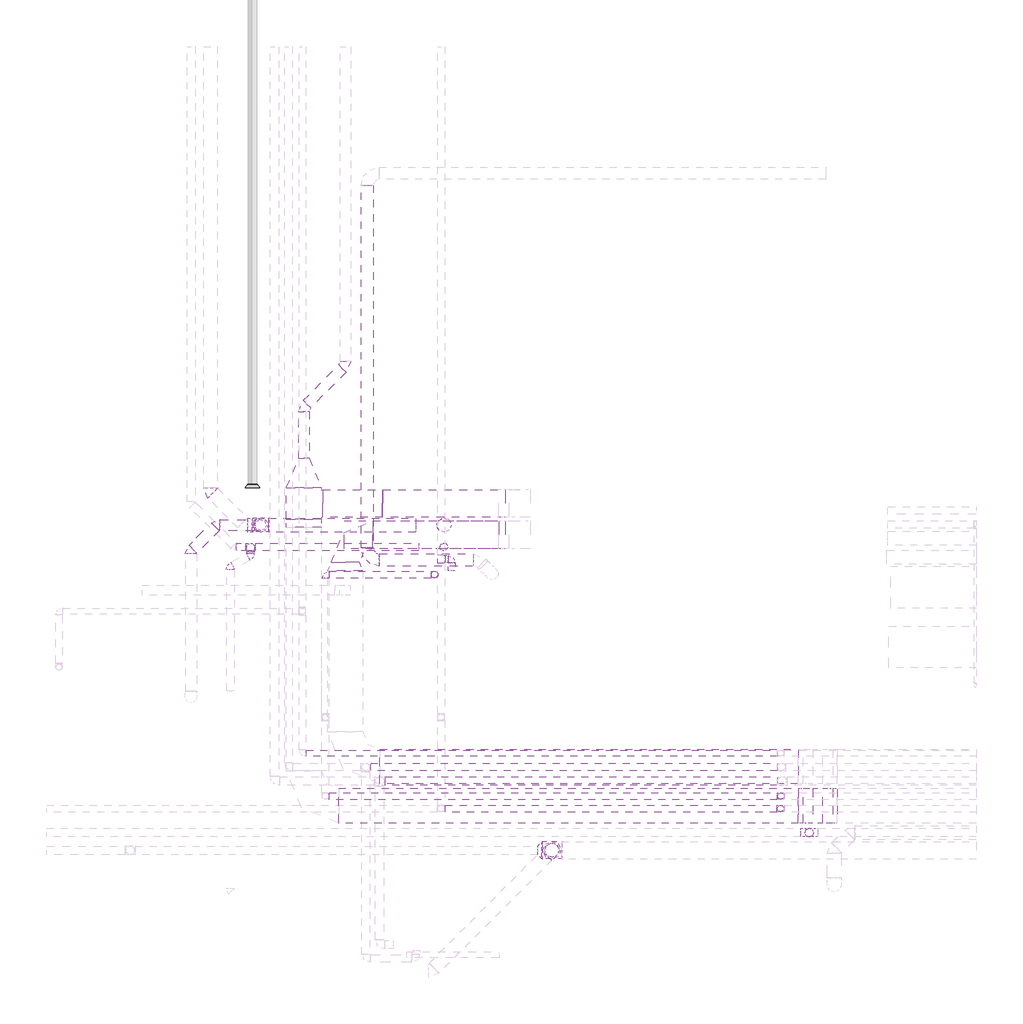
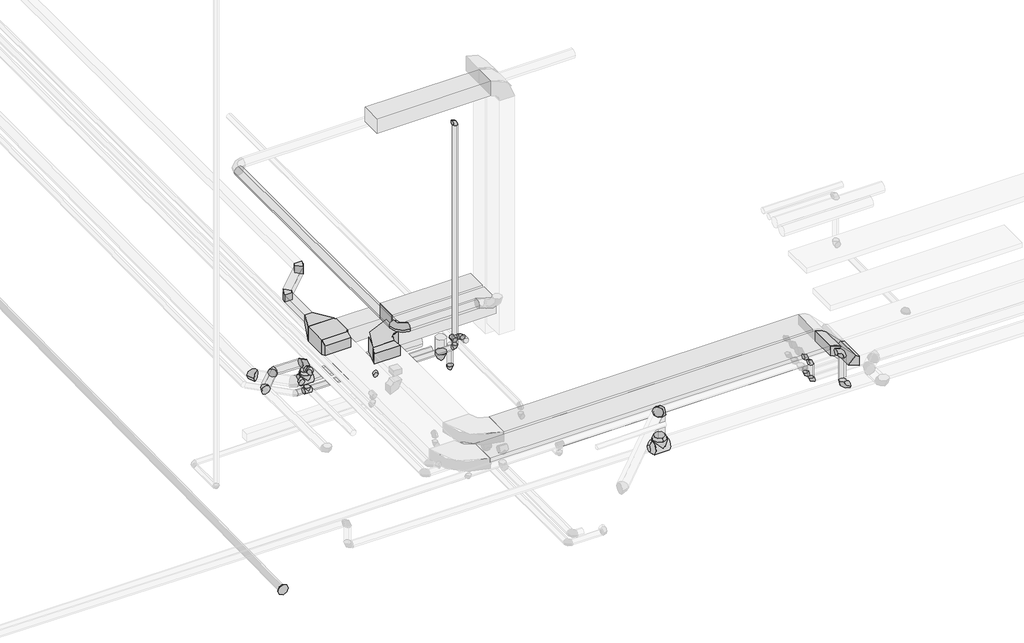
# One storey, part 3 of 12: 26 pipe fittings, 22 pipe segments, 13 duct fittings, 12 duct segments.
"""IFC4 building model written with IfcOpenShell, lengths in millimetres."""

from ifc_helpers import new_model, si_unit, point, frame, frame_2d, origin, place, context, project, spatial, polyline, circle_curve, trimmed, segment, composite_curve, outline, extrude, transform, mapped, element, save
from components import duct_fitting_afa92eea, duct_fitting_d6645870, duct_fitting_4eb480d5, apt_0aab174b, apt_c334632e, m_codo_rectangular_radio_apt_1_w_cd8a0157, m_codo_rectangular_radio_apt_1_w_e05122fd, m_codo_rectangular_radio_apt_1_w_3d36b4d6, m_codo_redondo_ext_1_d_74319309, m_codo_redondo_ext_1_d_f5cf0ac1, pipe_fitting_daf7410a, pipe_fitting_0ea30f17, pipe_fitting_ae9a0cda, pipe_fitting_c8b089c1, pipe_fitting_fa3f9604, pipe_fitting_87aeffad, pipe_fitting_2d09eb79, pipe_fitting_d8b95698, pipe_fitting_3877afa0, pipe_fitting_ca4916f3, pipe_fitting_760535a0, pipe_fitting_a6cf3e06, pipe_fitting_a304570c, pipe_fitting_de21bee5, pipe_fitting_fdbd3d1a, pipe_fitting_402c58f1, pipe_fitting_2d7301f5, pipe_fitting_4bdfcd00

model = new_model("IFC4")

# Units and contexts
model_context = context("Model", 3, world=origin())
ifc_project = project(units=[si_unit("LENGTHUNIT", "METRE", prefix="MILLI")], contexts=[model_context])

# Site, building, storey
site = spatial("IfcSite", under=ifc_project)
building = spatial("IfcBuilding", under=site)
storey = spatial("IfcBuildingStorey", under=building, Name="Nivell -01 PS1_PK", Elevation=1850.0)

# Duct fittings
placement = place(None, origin())
duct_fitting_shape = duct_fitting_afa92eea(model_context)
element("IfcDuctFitting", 1, ObjectType="M_Transición rectangular - Ángulo : APT_45 graus", at=placement, inside=storey, context=model_context, shape_type="MappedRepresentation", body=[
    mapped(duct_fitting_shape, transform((5630.3976532, -11196.0448982, 6150.0), x_axis=(0.0, -1.0, 0.0), y_axis=(1.0, 0.0, 0.0), z_axis=(0.0, 0.0, 1.0))),
])
duct_fitting_2_shape = duct_fitting_d6645870(model_context)
element("IfcDuctFitting", 2, ObjectType="M_Transición rectangular - Ángulo : APT_45 graus", at=placement, inside=storey, context=model_context, shape_type="MappedRepresentation", body=[
    mapped(duct_fitting_2_shape, transform((5630.3976532, -10323.5575248, 6150.0), x_axis=(0.0, -1.0, 0.0), y_axis=(1.0, 0.0, 0.0), z_axis=(0.0, 0.0, 1.0))),
])
duct_fitting_3_shape = duct_fitting_4eb480d5(model_context)
element("IfcDuctFitting", 3, ObjectType="M_Transición rectangular - Ángulo : EXT_45 graus", at=placement, inside=storey, context=model_context, shape_type="MappedRepresentation", body=[
    mapped(duct_fitting_3_shape, transform((6225.7133499, -11821.0535666, 6150.0), x_axis=(0.0, -1.0, 0.0), y_axis=(1.0, 0.0, 0.0), z_axis=(0.0, 0.0, 1.0))),
])
apt_shape = apt_0aab174b(model_context)
element("IfcDuctFitting", 4, ObjectType="M_Te rectangular : APT", at=placement, inside=storey, context=model_context, shape_type="MappedRepresentation", body=[
    mapped(apt_shape, transform((5630.3976532, -10971.0448982, 6150.0), x_axis=(0.0, 1.0, 0.0), y_axis=(-1.0, 0.0, 0.0), z_axis=(0.0, 0.0, 1.0))),
])
apt_2_shape = apt_c334632e(model_context)
element("IfcDuctFitting", 5, ObjectType="M_Unión rectangular : APT", at=placement, inside=storey, context=model_context, shape_type="MappedRepresentation", body=[
    mapped(apt_2_shape, transform((6765.3976532, -10971.0448982, 6150.0), x_axis=(1.0, 0.0, 0.0), y_axis=(0.0, 1.0, 0.0), z_axis=(0.0, 0.0, 1.0))),
])
m_codo_rectangular_radio_apt_1_w_shape = m_codo_rectangular_radio_apt_1_w_cd8a0157(model_context)
element("IfcDuctFitting", 6, ObjectType="M_Codo rectangular - Radio : APT_1 W", at=placement, inside=storey, context=model_context, shape_type="MappedRepresentation", body=[
    mapped(m_codo_rectangular_radio_apt_1_w_shape, transform((12828.7133499, -15322.0340662, 6150.0), x_axis=(1.0, 0.0, 0.0), y_axis=(0.0, 0.0, -1.0), z_axis=(0.0, 1.0, 0.0))),
])
element("IfcDuctFitting", 7, ObjectType="M_Codo rectangular - Radio : APT_1 W", at=placement, inside=storey, context=model_context, shape_type="MappedRepresentation", body=[
    mapped(m_codo_rectangular_radio_apt_1_w_shape, transform((13228.7133499, -15322.0340662, 5750.0), x_axis=(-1.0, 0.0, 0.0), y_axis=(0.0, 0.0, 1.0), z_axis=(0.0, 1.0, 0.0))),
])
m_codo_rectangular_radio_apt_1_w_2_shape = m_codo_rectangular_radio_apt_1_w_e05122fd(model_context)
element("IfcDuctFitting", 8, ObjectType="M_Codo rectangular - Radio : APT_1 W", at=placement, inside=storey, context=model_context, shape_type="MappedRepresentation", body=[
    mapped(m_codo_rectangular_radio_apt_1_w_2_shape, transform((6230.3976532, -8986.5575248, 6150.0), x_axis=(0.7071067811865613, 0.7071067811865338, 0.0), y_axis=(-0.7071067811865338, 0.7071067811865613, 0.0), z_axis=(0.0, 0.0, 1.0))),
])
element("IfcDuctFitting", 9, ObjectType="M_Codo rectangular - Radio : APT_1 W", at=placement, inside=storey, context=model_context, shape_type="MappedRepresentation", body=[
    mapped(m_codo_rectangular_radio_apt_1_w_2_shape, transform((5630.3976532, -9586.5575248, 6150.0), x_axis=(-0.70710678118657, -0.7071067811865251, 0.0), y_axis=(0.7071067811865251, -0.70710678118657, 0.0), z_axis=(0.0, 0.0, 1.0))),
])
m_codo_rectangular_radio_apt_1_w_3_shape = m_codo_rectangular_radio_apt_1_w_3d36b4d6(model_context)
element("IfcDuctFitting", 10, ObjectType="M_Codo rectangular - Radio : EXT_1 W", at=placement, inside=storey, context=model_context, shape_type="MappedRepresentation", body=[
    mapped(m_codo_rectangular_radio_apt_1_w_3_shape, transform((6225.7133499, -11421.0535666, 6150.0), x_axis=(-1.0, 0.0, 0.0), y_axis=(0.0, -1.0, 0.0), z_axis=(0.0, 0.0, 1.0))),
])
m_codo_redondo_ext_1_d_shape = m_codo_redondo_ext_1_d_74319309(model_context)
element("IfcDuctFitting", 11, ObjectType="M_Codo redondo : EXT_1 D", at=placement, inside=storey, context=model_context, shape_type="MappedRepresentation", body=[
    mapped(m_codo_redondo_ext_1_d_shape, transform((6541.1206995, -11784.7059364, 6462.5), x_axis=(0.0, -1.0, 0.0), y_axis=(1.0, 0.0, 0.0), z_axis=(0.0, 0.0, 1.0))),
])
m_codo_redondo_ext_1_d_2_shape = m_codo_redondo_ext_1_d_f5cf0ac1(model_context)
element("IfcDuctFitting", 12, ObjectType="M_Codo redondo : EXT_1 D", at=placement, inside=storey, context=model_context, shape_type="MappedRepresentation", body=[
    mapped(m_codo_redondo_ext_1_d_2_shape, transform((12904.4419437, -15709.0880218, 6196.7), x_axis=(1.0, 0.0, 0.0), y_axis=(0.0, 0.0, -1.0), z_axis=(0.0, 1.0, 0.0))),
])
element("IfcDuctFitting", 13, ObjectType="M_Codo redondo : EXT_1 D", at=placement, inside=storey, context=model_context, shape_type="MappedRepresentation", body=[
    mapped(m_codo_redondo_ext_1_d_2_shape, transform((12904.4419437, -15709.0886118, 5450.0437732), x_axis=(0.0, 0.0, -1.0), y_axis=(1.0, 0.0, 0.0), z_axis=(0.0, -1.0, 0.0))),
])

# Duct segments
element("IfcDuctSegment", 14, ObjectType="EXT_Fibra de vidre rígida", at=placement, inside=storey, context=model_context, shape_type="SweptSolid", body=[
    extrude(outline(polyline([(8437.7699514, -11221.0059601), (8437.7699514, -11621.0059601), (6215.0942859, -11621.0059601), (6215.0942859, -11221.0059601), (8437.7699514, -11221.0059601)])), frame((0.0, 0.0, 10510.0), z_axis=(0.0, 0.0, 1.0), x_axis=(1.0, 0.0, 0.0)), (0.0, 0.0, 1.0), 300.0),
])
element("IfcDuctSegment", 15, ObjectType="EXT_Acer Galvanitzat - Rígid", at=placement, inside=storey, context=model_context, shape_type="SweptSolid", body=[
    extrude(outline(composite_curve([segment(trimmed(circle_curve(frame_2d((6462.5, 6541.1206995)), 87.5), [point((6462.5, 6453.6206995))], [point((6375.0, 6541.1206995))], False, "CARTESIAN"), True, "CONTINUOUS"), segment(trimmed(circle_curve(frame_2d((6462.5, 6541.1206995)), 87.5), [point((6375.0, 6541.1206995))], [point((6462.5, 6628.6206995))], False, "CARTESIAN"), True, "CONTINUOUS"), segment(trimmed(circle_curve(frame_2d((6462.5, 6541.1206995)), 87.5), [point((6462.5, 6628.6206995))], [point((6550.0, 6541.1206995))], False, "CARTESIAN"), True, "CONTINUOUS"), segment(trimmed(circle_curve(frame_2d((6462.5, 6541.1206995)), 87.5), [point((6550.0, 6541.1206995))], [point((6462.5, 6453.6206995))], False, "CARTESIAN"), True, "CONTINUOUS")], self_intersect=False)), frame((0.0, -11609.7059364, 0.0), z_axis=(0.0, 1.0, 0.0), x_axis=(0.0, 0.0, 1.0)), (0.0, 0.0, 1.0), 5214.5201647),
])
element("IfcDuctSegment", 16, ObjectType="APT_Fibra de vidre rígida", at=placement, inside=storey, context=model_context, shape_type="SweptSolid", body=[
    extrude(outline(polyline([(6768.3976532, -11171.0448982), (6768.3976532, -10771.0448982), (8530.3976532, -10771.0448982), (8530.3976532, -11171.0448982), (6768.3976532, -11171.0448982)])), frame((0.0, 0.0, 6000.0), z_axis=(0.0, 0.0, 1.0), x_axis=(1.0, 0.0, 0.0)), (0.0, 0.0, 1.0), 300.0),
])
element("IfcDuctSegment", 17, ObjectType="APT_Fibra de vidre rígida", at=placement, inside=storey, context=model_context, shape_type="SweptSolid", body=[
    extrude(outline(polyline([(5555.3976532, -9648.6895591), (5705.3976532, -9648.6895591), (5705.3976532, -10323.5575248), (5555.3976532, -10323.5575248), (5555.3976532, -9648.6895591)])), frame((0.0, 0.0, 6075.0), z_axis=(0.0, 0.0, 1.0), x_axis=(1.0, 0.0, 0.0)), (0.0, 0.0, 1.0), 150.0),
])
element("IfcDuctSegment", 18, ObjectType="EXT_Fibra de vidre rígida", at=placement, inside=storey, context=model_context, shape_type="SweptSolid", body=[
    extrude(outline(polyline([(6625.7133499, -11621.0535666), (6625.7133499, -11221.0535666), (8530.3976532, -11221.0535666), (8530.3976532, -11621.0535666), (6625.7133499, -11621.0535666)])), frame((0.0, 0.0, 6000.0), z_axis=(0.0, 0.0, 1.0), x_axis=(1.0, 0.0, 0.0)), (0.0, 0.0, 1.0), 300.0),
])
element("IfcDuctSegment", 19, ObjectType="APT_Fibra de vidre rígida", at=placement, inside=storey, context=model_context, shape_type="SweptSolid", body=[
    extrude(outline(polyline([(12745.8706374, -15072.0340662), (12745.8706374, -15572.0340662), (6130.3976532, -15572.0340662), (6130.3976532, -15072.0340662), (12745.8706374, -15072.0340662)])), frame((0.0, 0.0, 6050.0), z_axis=(0.0, 0.0, 1.0), x_axis=(1.0, 0.0, 0.0)), (0.0, 0.0, 1.0), 200.0),
])
element("IfcDuctSegment", 20, ObjectType="APT_Fibra de vidre rígida", at=placement, inside=storey, context=model_context, shape_type="SweptSolid", body=[
    extrude(outline(polyline([(5905.3976532, -11171.0448982), (5905.3976532, -10771.0448982), (6762.3976532, -10771.0448982), (6762.3976532, -11171.0448982), (5905.3976532, -11171.0448982)])), frame((0.0, 0.0, 6000.0), z_axis=(0.0, 0.0, 1.0), x_axis=(1.0, 0.0, 0.0)), (0.0, 0.0, 1.0), 300.0),
])
element("IfcDuctSegment", 21, ObjectType="EXT_Acer Galvanitzat - Rígid", at=placement, inside=storey, context=model_context, shape_type="SweptSolid", body=[
    extrude(outline(composite_curve([segment(trimmed(circle_curve(frame_2d((-11784.7059364, 6462.5)), 87.5), [point((-11872.2059364, 6462.5))], [point((-11784.7059364, 6550.0))], False, "CARTESIAN"), True, "CONTINUOUS"), segment(trimmed(circle_curve(frame_2d((-11784.7059364, 6462.5)), 87.5), [point((-11784.7059364, 6550.0))], [point((-11697.2059364, 6462.5))], False, "CARTESIAN"), True, "CONTINUOUS"), segment(trimmed(circle_curve(frame_2d((-11784.7059364, 6462.5)), 87.5), [point((-11697.2059364, 6462.5))], [point((-11784.7059364, 6375.0))], False, "CARTESIAN"), True, "CONTINUOUS"), segment(trimmed(circle_curve(frame_2d((-11784.7059364, 6462.5)), 87.5), [point((-11784.7059364, 6375.0))], [point((-11872.2059364, 6462.5))], False, "CARTESIAN"), True, "CONTINUOUS")], self_intersect=False)), frame((6716.1206995, 0.0, 0.0), z_axis=(1.0, 0.0, 0.0), x_axis=(0.0, 1.0, 0.0)), (0.0, 0.0, 1.0), 1352.5126266),
])
element("IfcDuctSegment", 22, ObjectType="EXT_Fibra de vidre rígida", at=placement, inside=storey, context=model_context, shape_type="SweptSolid", body=[
    extrude(outline(polyline([(6725.7133499, -15007.626822), (6725.7133499, -14507.626822), (12745.8706374, -14507.626822), (12745.8706374, -15007.626822), (6725.7133499, -15007.626822)])), frame((0.0, 0.0, 6050.0), z_axis=(0.0, 0.0, 1.0), x_axis=(1.0, 0.0, 0.0)), (0.0, 0.0, 1.0), 200.0),
])
element("IfcDuctSegment", 23, ObjectType="APT_Fibra de vidre rígida", at=placement, inside=storey, context=model_context, shape_type="SweptSolid", body=[
    extrude(outline(polyline([(0.0, -500.0), (0.0, 0.0), (400.0, 0.0), (400.0, -500.0), (0.0, -500.0)])), frame((12816.5813155, -15072.0340662, 6020.7106781), z_axis=(0.7071067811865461, 0.0, 0.7071067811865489), x_axis=(0.7071067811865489, 0.0, -0.7071067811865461)), (0.0, 0.0, 1.0), 200.0),
])
element("IfcDuctSegment", 24, ObjectType="APT_Fibra de vidre rígida", at=placement, inside=storey, context=model_context, shape_type="SweptSolid", body=[
    extrude(outline(polyline([(6133.4306618, -8977.458499), (6239.4966789, -9083.5245162), (5727.3646446, -9595.6565505), (5621.2986274, -9489.5905333), (6133.4306618, -8977.458499)])), frame((0.0, 0.0, 6075.0), z_axis=(0.0, 0.0, 1.0), x_axis=(1.0, 0.0, 0.0)), (0.0, 0.0, 1.0), 150.0),
])
element("IfcDuctSegment", 25, ObjectType="EXT_Acer Galvanitzat - Rígid", at=placement, inside=storey, context=model_context, shape_type="SweptSolid", body=[
    extrude(outline(composite_curve([segment(trimmed(circle_curve(frame_2d((0.0, -62.5)), 62.5), [point((0.0, 0.0))], [point((62.5, -62.5))], False, "CARTESIAN"), True, "CONTINUOUS"), segment(trimmed(circle_curve(frame_2d((0.0, -62.5)), 62.5), [point((62.5, -62.5))], [point((0.0, -125.0))], False, "CARTESIAN"), True, "CONTINUOUS"), segment(trimmed(circle_curve(frame_2d((0.0, -62.5)), 62.5), [point((0.0, -125.0))], [point((-62.5, -62.5))], False, "CARTESIAN"), True, "CONTINUOUS"), segment(trimmed(circle_curve(frame_2d((0.0, -62.5)), 62.5), [point((-62.5, -62.5))], [point((0.0, 0.0))], False, "CARTESIAN"), True, "CONTINUOUS")], self_intersect=False)), frame((12904.4419437, -15771.5886118, 5575.0438474), z_axis=(0.0, 1.1879396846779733e-06, 0.9999999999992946), x_axis=(-1.0, 0.0, 0.0)), (0.0, 0.0, 1.0), 496.6562268),
])

# Pipe fittings
pipe_fitting_shape = pipe_fitting_daf7410a(model_context)
element("IfcPipeFitting", 26, ObjectType="M_Codo - Genérico : Estándar", at=placement, inside=storey, context=model_context, shape_type="MappedRepresentation", body=[
    mapped(pipe_fitting_shape, transform((5007.9227666, -11283.0348954, 6038.4611755), x_axis=(0.9999500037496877, 0.0, -0.009999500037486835), y_axis=(-0.009999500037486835, 0.0, -0.9999500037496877), z_axis=(0.0, 1.0, 0.0))),
])
pipe_fitting_2_shape = pipe_fitting_0ea30f17(model_context)
element("IfcPipeFitting", 27, ObjectType="M_Codo - Genérico : Estándar", at=placement, inside=storey, context=model_context, shape_type="MappedRepresentation", body=[
    mapped(pipe_fitting_2_shape, transform((4008.5897125, -11656.1501323, 6050.0), x_axis=(-0.7070714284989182, -0.7070714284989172, 0.009999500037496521), y_axis=(0.70713000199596, -0.7070714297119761, 0.004141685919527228), z_axis=(0.004141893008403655, 0.009999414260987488, 0.9999414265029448))),
])
element("IfcPipeFitting", 28, ObjectType="M_Codo - Genérico : Estándar", at=placement, inside=storey, context=model_context, shape_type="MappedRepresentation", body=[
    mapped(pipe_fitting_2_shape, transform((4381.7049494, -11283.0348954, 6044.7233537), x_axis=(-0.9999500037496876, 0.0, 0.009999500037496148), y_axis=(4.141685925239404e-05, -0.9999914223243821, 0.004141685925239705), z_axis=(0.009999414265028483, 0.004141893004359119, 0.9999414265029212))),
])
pipe_fitting_3_shape = pipe_fitting_ae9a0cda(model_context)
element("IfcPipeFitting", 29, ObjectType="M_Codo - Genérico : Estándar", at=placement, inside=storey, context=model_context, shape_type="MappedRepresentation", body=[
    mapped(pipe_fitting_3_shape, transform((4287.2876623, -10789.2621907, 5707.0204004), x_axis=(0.0, -0.9999500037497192, -0.009999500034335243), y_axis=(0.9999914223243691, 4.1416859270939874e-05, -0.004141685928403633), z_axis=(0.004141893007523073, -0.009999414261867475, 0.9999414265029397))),
])
pipe_fitting_4_shape = pipe_fitting_c8b089c1(model_context)
element("IfcPipeFitting", 30, ObjectType="M_Codo - Genérico : Estándar", at=placement, inside=storey, context=model_context, shape_type="MappedRepresentation", body=[
    mapped(pipe_fitting_4_shape, transform((7651.6499618, -11284.1025763, 5275.3550602), x_axis=(0.0, 0.0, -1.0), y_axis=(-0.7071067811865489, 0.7071067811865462, 0.0), z_axis=(0.7071067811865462, 0.7071067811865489, 0.0))),
])
pipe_fitting_5_shape = pipe_fitting_fa3f9604(model_context)
element("IfcPipeFitting", 31, ObjectType="M_Codo - Genérico : Estándar", at=placement, inside=storey, context=model_context, shape_type="MappedRepresentation", body=[
    mapped(pipe_fitting_5_shape, transform((4863.5008299, -11598.5251165, 6154.1977798), x_axis=(0.0, 0.0, 1.0), y_axis=(0.0, -1.0, 0.0), z_axis=(1.0, 0.0, 0.0))),
])
pipe_fitting_6_shape = pipe_fitting_87aeffad(model_context)
element("IfcPipeFitting", 32, ObjectType="M_Codo - Genérico : Estándar", at=placement, inside=storey, context=model_context, shape_type="MappedRepresentation", body=[
    mapped(pipe_fitting_6_shape, transform((7514.0491946, -11995.3314651, 10529.2), x_axis=(0.0, 0.0, 1.0), y_axis=(-1.0, 0.0, 0.0), z_axis=(0.0, -1.0, 0.0))),
])
element("IfcPipeFitting", 33, ObjectType="M_Codo - Genérico : Estándar", at=placement, inside=storey, context=model_context, shape_type="MappedRepresentation", body=[
    mapped(pipe_fitting_6_shape, transform((7761.0364328, -11771.0454936, 5899.2), x_axis=(0.0, 1.0, 0.0), y_axis=(-1.0, 0.0, 0.0), z_axis=(0.0, 0.0, 1.0))),
])
element("IfcPipeFitting", 34, ObjectType="M_Codo - Genérico : Estándar", at=placement, inside=storey, context=model_context, shape_type="MappedRepresentation", body=[
    mapped(pipe_fitting_6_shape, transform((7514.0491946, -11995.3314651, 5899.2), x_axis=(0.0, 0.0, -1.0), y_axis=(-1.0, 0.0, 0.0), z_axis=(0.0, 1.0, 0.0))),
])
element("IfcPipeFitting", 35, ObjectType="M_Codo - Genérico : Estándar", at=placement, inside=storey, context=model_context, shape_type="MappedRepresentation", body=[
    mapped(pipe_fitting_6_shape, transform((5940.3309667, -11995.3314651, 5899.2), x_axis=(-1.0, 0.0, 0.0), y_axis=(0.0, -1.0, 0.0), z_axis=(0.0, 0.0, 1.0))),
])
element("IfcPipeFitting", 36, ObjectType="M_Codo - Genérico : Estándar", at=placement, inside=storey, context=model_context, shape_type="MappedRepresentation", body=[
    mapped(pipe_fitting_6_shape, transform((12495.7217422, -15184.3810887, 5899.2), x_axis=(1.0, 0.0, 0.0), y_axis=(0.0, 0.0, -1.0), z_axis=(0.0, 1.0, 0.0))),
])
element("IfcPipeFitting", 37, ObjectType="M_Codo - Genérico : Estándar", at=placement, inside=storey, context=model_context, shape_type="MappedRepresentation", body=[
    mapped(pipe_fitting_6_shape, transform((12492.3309625, -15364.3646266, 5899.2), x_axis=(1.0, 0.0, 0.0), y_axis=(0.0, 0.0, -1.0), z_axis=(0.0, 1.0, 0.0))),
])
element("IfcPipeFitting", 38, ObjectType="M_Codo - Genérico : Estándar", at=placement, inside=storey, context=model_context, shape_type="MappedRepresentation", body=[
    mapped(pipe_fitting_6_shape, transform((12492.3309625, -15364.3646266, 5519.2), x_axis=(0.0, 0.0, -1.0), y_axis=(1.0, 0.0, 0.0), z_axis=(0.0, -1.0, 0.0))),
])
element("IfcPipeFitting", 39, ObjectType="M_Codo - Genérico : Estándar", at=placement, inside=storey, context=model_context, shape_type="MappedRepresentation", body=[
    mapped(pipe_fitting_6_shape, transform((12495.7217422, -15184.3810887, 5519.2), x_axis=(0.0, 0.0, -1.0), y_axis=(1.0, 0.0, 0.0), z_axis=(0.0, -1.0, 0.0))),
])
pipe_fitting_7_shape = pipe_fitting_2d09eb79(model_context)
element("IfcPipeFitting", 40, ObjectType="M_Te - Genérica : Estándar", at=placement, inside=storey, context=model_context, shape_type="MappedRepresentation", body=[
    mapped(pipe_fitting_7_shape, transform((7606.3040659, -11771.0454936, 5899.2), x_axis=(0.0, -1.0, 0.0), y_axis=(-1.0, 0.0, 0.0), z_axis=(0.0, 0.0, -1.0))),
])
pipe_fitting_8_shape = pipe_fitting_d8b95698(model_context)
element("IfcPipeFitting", 41, ObjectType="M_Codo - Genérico : Estándar", at=placement, inside=storey, context=model_context, shape_type="MappedRepresentation", body=[
    mapped(pipe_fitting_8_shape, transform((7646.8586326, -11600.2569539, 5208.2101699), x_axis=(0.0, 0.0, -1.0), y_axis=(-0.7071067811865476, 0.7071067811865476, 0.0), z_axis=(0.7071067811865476, 0.7071067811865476, 0.0))),
])
pipe_fitting_9_shape = pipe_fitting_3877afa0(model_context)
element("IfcPipeFitting", 42, ObjectType="M_Te - Genérica : Estándar", at=placement, inside=storey, context=model_context, shape_type="MappedRepresentation", body=[
    mapped(pipe_fitting_9_shape, transform((4863.5008299, -11598.5251165, 5697.7649259), x_axis=(-0.9999500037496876, 0.0, 0.009999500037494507), y_axis=(-0.009999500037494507, 0.0, -0.9999500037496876), z_axis=(0.0, -1.0, 0.0))),
])
pipe_fitting_10_shape = pipe_fitting_ca4916f3(model_context)
element("IfcPipeFitting", 43, ObjectType="M_Codo - Genérico : Estándar", at=placement, inside=storey, context=model_context, shape_type="MappedRepresentation", body=[
    mapped(pipe_fitting_10_shape, transform((4863.5008299, -11722.1955352, 6154.1977798), x_axis=(0.8724963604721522, 0.48846478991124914, 0.012338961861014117), y_axis=(-0.4884159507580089, 0.8725836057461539, -0.006907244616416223), z_axis=(-0.014140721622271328, 0.0, 0.9999000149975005))),
])
pipe_fitting_11_shape = pipe_fitting_760535a0(model_context)
element("IfcPipeFitting", 44, ObjectType="M_Codo - Genérico : Estándar", at=placement, inside=storey, context=model_context, shape_type="MappedRepresentation", body=[
    mapped(pipe_fitting_11_shape, transform((4572.3218791, -11885.2110405, 6150.0), x_axis=(-0.872496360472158, -0.4884647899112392, -0.012338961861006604), y_axis=(0.4882218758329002, -0.8725263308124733, 0.018363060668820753), z_axis=(-0.019735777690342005, 0.009997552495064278, 0.9997552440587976))),
])
pipe_fitting_12_shape = pipe_fitting_a6cf3e06(model_context)
element("IfcPipeFitting", 45, ObjectType="M_Transición - Genérica : Estándar", at=placement, inside=storey, context=model_context, shape_type="MappedRepresentation", body=[
    mapped(pipe_fitting_12_shape, transform((5007.9227666, -11283.0348954, 5813.6562758), x_axis=(0.0, 0.0, 1.0), y_axis=(-1.0, 0.0, 0.0), z_axis=(0.0, -1.0, 0.0))),
])
pipe_fitting_13_shape = pipe_fitting_a304570c(model_context)
element("IfcPipeFitting", 46, ObjectType="M_Te - Genérica : Estándar", at=placement, inside=storey, context=model_context, shape_type="MappedRepresentation", body=[
    mapped(pipe_fitting_13_shape, transform((5007.9227666, -11283.0348954, 5697.7687758), x_axis=(-0.9999500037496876, 0.0, 0.009999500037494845), y_axis=(-0.009999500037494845, 0.0, -0.9999500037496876), z_axis=(0.0, -1.0, 0.0))),
])
pipe_fitting_14_shape = pipe_fitting_de21bee5(model_context)
element("IfcPipeFitting", 47, ObjectType="M_Transición - Genérica : Estándar", at=placement, inside=storey, context=model_context, shape_type="MappedRepresentation", body=[
    mapped(pipe_fitting_14_shape, transform((4891.2404963, -10693.714725, 1057.0131947), x_axis=(0.0, -0.9999500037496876, -0.009999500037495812), y_axis=(1.0, 0.0, 0.0), z_axis=(0.0, -0.009999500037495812, 0.9999500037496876))),
])
pipe_fitting_15_shape = pipe_fitting_fdbd3d1a(model_context)
element("IfcPipeFitting", 48, ObjectType="M_Codo - Genérico : Estándar", at=placement, inside=storey, context=model_context, shape_type="MappedRepresentation", body=[
    mapped(pipe_fitting_15_shape, transform((9203.6041539, -15960.7998598, 6437.4015615), x_axis=(0.004829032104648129, 0.004828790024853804, 0.9999766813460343), y_axis=(-0.7071080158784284, -0.707072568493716, 0.006829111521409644), z_axis=(0.7070890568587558, -0.7071245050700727, 0.0))),
])
pipe_fitting_16_shape = pipe_fitting_402c58f1(model_context)
element("IfcPipeFitting", 49, ObjectType="M_Te - Genérica : Estándar", at=placement, inside=storey, context=model_context, shape_type="MappedRepresentation", body=[
    mapped(pipe_fitting_16_shape, transform((9199.9929542, -15964.4108784, 5689.6087626), x_axis=(-0.9999500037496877, 0.0, 0.009999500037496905), y_axis=(-0.009999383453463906, -0.004828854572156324, -0.9999383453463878), z_axis=(4.828613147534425e-05, -0.9999883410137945, 0.004828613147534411))),
])
pipe_fitting_17_shape = pipe_fitting_2d7301f5(model_context)
element("IfcPipeFitting", 50, ObjectType="M_Transición - Genérica : Estándar", at=placement, inside=storey, context=model_context, shape_type="MappedRepresentation", body=[
    mapped(pipe_fitting_17_shape, transform((9058.7125181, -15964.8234332, 5691.021567), x_axis=(-0.9999500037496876, 0.0, 0.009999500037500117), y_axis=(-0.00999938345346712, -0.004828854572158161, -0.9999383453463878), z_axis=(4.8286131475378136e-05, -0.9999883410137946, 0.004828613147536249))),
])
pipe_fitting_18_shape = pipe_fitting_4bdfcd00(model_context)
element("IfcPipeFitting", 51, ObjectType="M_Transición - Genérica : Estándar", at=placement, inside=storey, context=model_context, shape_type="MappedRepresentation", body=[
    mapped(pipe_fitting_18_shape, transform((9200.6752361, -15963.7286307, 5830.892968), x_axis=(0.004829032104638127, 0.004828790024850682, 0.9999766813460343), y_axis=(-4.8286131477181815e-05, 0.9999883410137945, -0.004828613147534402), z_axis=(-0.9999883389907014, -2.496747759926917e-05, 0.0048292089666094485))),
])

# Pipe segments
element("IfcPipeSegment", 52, ObjectType="AN_CI", at=placement, inside=storey, context=model_context, shape_type="SweptSolid", body=[
    extrude(outline(composite_curve([segment(trimmed(circle_curve(frame_2d((-15184.3810887, 5899.2)), 50.8), [point((-15235.1810887, 5899.2))], [point((-15184.3810887, 5950.0))], False, "CARTESIAN"), True, "CONTINUOUS"), segment(trimmed(circle_curve(frame_2d((-15184.3810887, 5899.2)), 50.8), [point((-15184.3810887, 5950.0))], [point((-15133.5810887, 5899.2))], False, "CARTESIAN"), True, "CONTINUOUS"), segment(trimmed(circle_curve(frame_2d((-15184.3810887, 5899.2)), 50.8), [point((-15133.5810887, 5899.2))], [point((-15184.3810887, 5848.4))], False, "CARTESIAN"), True, "CONTINUOUS"), segment(trimmed(circle_curve(frame_2d((-15184.3810887, 5899.2)), 50.8), [point((-15184.3810887, 5848.4))], [point((-15235.1810887, 5899.2))], False, "CARTESIAN"), True, "CONTINUOUS")], self_intersect=False)), frame((5992.7184667, 0.0, 0.0), z_axis=(1.0, 0.0, 0.0), x_axis=(0.0, 1.0, 0.0)), (0.0, 0.0, 1.0), 6450.6157755),
])
element("IfcPipeSegment", 53, ObjectType="AN_CI", at=placement, inside=storey, context=model_context, shape_type="SweptSolid", body=[
    extrude(outline(composite_curve([segment(trimmed(circle_curve(frame_2d((-11995.3314651, 5899.2)), 50.8), [point((-11944.5314651, 5899.2))], [point((-11995.3314651, 5848.4))], False, "CARTESIAN"), True, "CONTINUOUS"), segment(trimmed(circle_curve(frame_2d((-11995.3314651, 5899.2)), 50.8), [point((-11995.3314651, 5848.4))], [point((-12046.1314651, 5899.2))], False, "CARTESIAN"), True, "CONTINUOUS"), segment(trimmed(circle_curve(frame_2d((-11995.3314651, 5899.2)), 50.8), [point((-12046.1314651, 5899.2))], [point((-11995.3314651, 5950.0))], False, "CARTESIAN"), True, "CONTINUOUS"), segment(trimmed(circle_curve(frame_2d((-11995.3314651, 5899.2)), 50.8), [point((-11995.3314651, 5950.0))], [point((-11944.5314651, 5899.2))], False, "CARTESIAN"), True, "CONTINUOUS")], self_intersect=False)), frame((5992.7184667, 0.0, 0.0), z_axis=(1.0, 0.0, 0.0), x_axis=(0.0, 1.0, 0.0)), (0.0, 0.0, 1.0), 1468.9432279),
])
element("IfcPipeSegment", 54, ObjectType="AN_CI", at=placement, inside=storey, context=model_context, shape_type="SweptSolid", body=[
    extrude(outline(composite_curve([segment(trimmed(circle_curve(frame_2d((7514.0491946, -11995.3314651)), 50.8), [point((7564.8491946, -11995.3314651))], [point((7514.0491946, -12046.1314651))], False, "CARTESIAN"), True, "CONTINUOUS"), segment(trimmed(circle_curve(frame_2d((7514.0491946, -11995.3314651)), 50.8), [point((7514.0491946, -12046.1314651))], [point((7463.2491946, -11995.3314651))], False, "CARTESIAN"), True, "CONTINUOUS"), segment(trimmed(circle_curve(frame_2d((7514.0491946, -11995.3314651)), 50.8), [point((7463.2491946, -11995.3314651))], [point((7514.0491946, -11944.5314651))], False, "CARTESIAN"), True, "CONTINUOUS"), segment(trimmed(circle_curve(frame_2d((7514.0491946, -11995.3314651)), 50.8), [point((7514.0491946, -11944.5314651))], [point((7564.8491946, -11995.3314651))], False, "CARTESIAN"), True, "CONTINUOUS")], self_intersect=False)), frame((0.0, 0.0, 5951.5875), z_axis=(0.0, 0.0, 1.0), x_axis=(1.0, 0.0, 0.0)), (0.0, 0.0, 1.0), 4525.225),
])
element("IfcPipeSegment", 55, ObjectType="PP_FN", at=placement, inside=storey, context=model_context, shape_type="SweptSolid", body=[
    extrude(outline(composite_curve([segment(trimmed(circle_curve(frame_2d((-14567.4914554, 5905.0)), 45.0), [point((-14612.4914554, 5905.0))], [point((-14567.4914554, 5950.0))], False, "CARTESIAN"), True, "CONTINUOUS"), segment(trimmed(circle_curve(frame_2d((-14567.4914554, 5905.0)), 45.0), [point((-14567.4914554, 5950.0))], [point((-14522.4914554, 5905.0))], False, "CARTESIAN"), True, "CONTINUOUS"), segment(trimmed(circle_curve(frame_2d((-14567.4914554, 5905.0)), 45.0), [point((-14522.4914554, 5905.0))], [point((-14567.4914554, 5860.0))], False, "CARTESIAN"), True, "CONTINUOUS"), segment(trimmed(circle_curve(frame_2d((-14567.4914554, 5905.0)), 45.0), [point((-14567.4914554, 5860.0))], [point((-14612.4914554, 5905.0))], False, "CARTESIAN"), True, "CONTINUOUS")], self_intersect=False)), frame((5662.0643596, 0.0, 0.0), z_axis=(1.0, 0.0, 0.0), x_axis=(0.0, 1.0, 0.0)), (0.0, 0.0, 1.0), 6781.2698826),
])
element("IfcPipeSegment", 56, ObjectType="PP_FN", at=placement, inside=storey, context=model_context, shape_type="SweptSolid", body=[
    extrude(outline(composite_curve([segment(trimmed(circle_curve(frame_2d((-14967.4914554, 5887.5)), 62.5), [point((-15029.9914554, 5887.5))], [point((-14967.4914554, 5950.0))], False, "CARTESIAN"), True, "CONTINUOUS"), segment(trimmed(circle_curve(frame_2d((-14967.4914554, 5887.5)), 62.5), [point((-14967.4914554, 5950.0))], [point((-14904.9914554, 5887.5))], False, "CARTESIAN"), True, "CONTINUOUS"), segment(trimmed(circle_curve(frame_2d((-14967.4914554, 5887.5)), 62.5), [point((-14904.9914554, 5887.5))], [point((-14967.4914554, 5825.0))], False, "CARTESIAN"), True, "CONTINUOUS"), segment(trimmed(circle_curve(frame_2d((-14967.4914554, 5887.5)), 62.5), [point((-14967.4914554, 5825.0))], [point((-15029.9914554, 5887.5))], False, "CARTESIAN"), True, "CONTINUOUS")], self_intersect=False)), frame((6799.148033, 0.0, 0.0), z_axis=(1.0, 0.0, 0.0), x_axis=(0.0, 1.0, 0.0)), (0.0, 0.0, 1.0), 5644.1862092),
])
element("IfcPipeSegment", 57, ObjectType="AN_CI", at=placement, inside=storey, context=model_context, shape_type="SweptSolid", body=[
    extrude(outline(composite_curve([segment(trimmed(circle_curve(frame_2d((-11771.0454936, 5899.2)), 50.8), [point((-11821.8454936, 5899.2))], [point((-11771.0454936, 5950.0))], False, "CARTESIAN"), True, "CONTINUOUS"), segment(trimmed(circle_curve(frame_2d((-11771.0454936, 5899.2)), 50.8), [point((-11771.0454936, 5950.0))], [point((-11720.2454936, 5899.2))], False, "CARTESIAN"), True, "CONTINUOUS"), segment(trimmed(circle_curve(frame_2d((-11771.0454936, 5899.2)), 50.8), [point((-11720.2454936, 5899.2))], [point((-11771.0454936, 5848.4))], False, "CARTESIAN"), True, "CONTINUOUS"), segment(trimmed(circle_curve(frame_2d((-11771.0454936, 5899.2)), 50.8), [point((-11771.0454936, 5848.4))], [point((-11821.8454936, 5899.2))], False, "CARTESIAN"), True, "CONTINUOUS")], self_intersect=False)), frame((7665.0415659, 0.0, 0.0), z_axis=(1.0, 0.0, 0.0), x_axis=(0.0, 1.0, 0.0)), (0.0, 0.0, 1.0), 43.6073669),
])
element("IfcPipeSegment", 58, ObjectType="AN_CI", at=placement, inside=storey, context=model_context, shape_type="SweptSolid", body=[
    extrude(outline(composite_curve([segment(trimmed(circle_curve(frame_2d((5899.2, 7761.0364328)), 50.8), [point((5899.2, 7811.8364328))], [point((5950.0, 7761.0364328))], False, "CARTESIAN"), True, "CONTINUOUS"), segment(trimmed(circle_curve(frame_2d((5899.2, 7761.0364328)), 50.8), [point((5950.0, 7761.0364328))], [point((5899.2, 7710.2364328))], False, "CARTESIAN"), True, "CONTINUOUS"), segment(trimmed(circle_curve(frame_2d((5899.2, 7761.0364328)), 50.8), [point((5899.2, 7710.2364328))], [point((5848.4, 7761.0364328))], False, "CARTESIAN"), True, "CONTINUOUS"), segment(trimmed(circle_curve(frame_2d((5899.2, 7761.0364328)), 50.8), [point((5848.4, 7761.0364328))], [point((5899.2, 7811.8364328))], False, "CARTESIAN"), True, "CONTINUOUS")], self_intersect=False)), frame((0.0, -11942.9439651, 0.0), z_axis=(0.0, 1.0, 0.0), x_axis=(0.0, 0.0, 1.0)), (0.0, 0.0, 1.0), 119.5109715),
])
element("IfcPipeSegment", 59, ObjectType="PVC_Baixant", at=placement, inside=storey, context=model_context, shape_type="SweptSolid", body=[
    extrude(outline(composite_curve([segment(trimmed(circle_curve(frame_2d((0.0, -100.0)), 100.0), [point((0.0, -200.0))], [point((-100.0, -100.0))], False, "CARTESIAN"), True, "CONTINUOUS"), segment(trimmed(circle_curve(frame_2d((0.0, -100.0)), 100.0), [point((-100.0, -100.0))], [point((0.0, 0.0))], False, "CARTESIAN"), True, "CONTINUOUS"), segment(trimmed(circle_curve(frame_2d((0.0, -100.0)), 100.0), [point((0.0, 0.0))], [point((99.9999999, -100.0))], False, "CARTESIAN"), True, "CONTINUOUS"), segment(trimmed(circle_curve(frame_2d((0.0, -100.0)), 100.0), [point((99.9999999, -100.0))], [point((0.0, -200.0))], False, "CARTESIAN"), True, "CONTINUOUS")], self_intersect=False)), frame((7242.7078343, -11183.0348954, 5675.4209252), z_axis=(-0.9999500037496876, 0.0, 0.009999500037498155), x_axis=(0.009999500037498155, 0.0, 0.9999500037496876)), (0.0, 0.0, 1.0), 2119.0093042),
])
element("IfcPipeSegment", 60, ObjectType="PVC_Baixant", at=placement, inside=storey, context=model_context, shape_type="SweptSolid", body=[
    extrude(outline(composite_curve([segment(trimmed(circle_curve(frame_2d((7651.6499618, -11284.1025763)), 100.0), [point((7751.6499618, -11284.1025763))], [point((7651.6499618, -11384.1025763))], False, "CARTESIAN"), True, "CONTINUOUS"), segment(trimmed(circle_curve(frame_2d((7651.6499618, -11284.1025763)), 100.0), [point((7651.6499618, -11384.1025763))], [point((7551.6499618, -11284.1025763))], False, "CARTESIAN"), True, "CONTINUOUS"), segment(trimmed(circle_curve(frame_2d((7651.6499618, -11284.1025763)), 100.0), [point((7551.6499618, -11284.1025763))], [point((7651.6499618, -11184.1025763))], False, "CARTESIAN"), True, "CONTINUOUS"), segment(trimmed(circle_curve(frame_2d((7651.6499618, -11284.1025763)), 100.0), [point((7651.6499618, -11184.1025763))], [point((7751.6499618, -11284.1025763))], False, "CARTESIAN"), True, "CONTINUOUS")], self_intersect=False)), frame((0.0, 0.0, 5320.7269783), z_axis=(0.0, 0.0, 1.0), x_axis=(1.0, 0.0, 0.0)), (0.0, 0.0, 1.0), 295.1566977),
])
element("IfcPipeSegment", 61, ObjectType="PVC_Baixant", at=placement, inside=storey, context=model_context, shape_type="SweptSolid", body=[
    extrude(outline(composite_curve([segment(trimmed(circle_curve(frame_2d((0.0, -55.0)), 55.0), [point((0.0, -110.0))], [point((-55.0, -55.0))], False, "CARTESIAN"), True, "CONTINUOUS"), segment(trimmed(circle_curve(frame_2d((0.0, -55.0)), 55.0), [point((-55.0, -55.0))], [point((0.0, 0.0))], False, "CARTESIAN"), True, "CONTINUOUS"), segment(trimmed(circle_curve(frame_2d((0.0, -55.0)), 55.0), [point((0.0, 0.0))], [point((55.0, -55.0))], False, "CARTESIAN"), True, "CONTINUOUS"), segment(trimmed(circle_curve(frame_2d((0.0, -55.0)), 55.0), [point((55.0, -55.0))], [point((0.0, -110.0))], False, "CARTESIAN"), True, "CONTINUOUS")], self_intersect=False)), frame((7284.0745462, -11543.5487689, 5675.9612442), z_axis=(-0.9999500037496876, 0.0, 0.009999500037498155), x_axis=(0.009999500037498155, 0.0, 0.9999500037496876)), (0.0, 0.0, 1.0), 2351.3832226),
])
element("IfcPipeSegment", 62, ObjectType="PVC_Baixant", at=placement, inside=storey, context=model_context, shape_type="SweptSolid", body=[
    extrude(outline(composite_curve([segment(trimmed(circle_curve(frame_2d((7646.8586326, -11600.2569539)), 55.0), [point((7701.8586326, -11600.2569539))], [point((7646.8586326, -11655.2569539))], False, "CARTESIAN"), True, "CONTINUOUS"), segment(trimmed(circle_curve(frame_2d((7646.8586326, -11600.2569539)), 55.0), [point((7646.8586326, -11655.2569539))], [point((7591.8586326, -11600.2569539))], False, "CARTESIAN"), True, "CONTINUOUS"), segment(trimmed(circle_curve(frame_2d((7646.8586326, -11600.2569539)), 55.0), [point((7591.8586326, -11600.2569539))], [point((7646.8586326, -11545.2569539))], False, "CARTESIAN"), True, "CONTINUOUS"), segment(trimmed(circle_curve(frame_2d((7646.8586326, -11600.2569539)), 55.0), [point((7646.8586326, -11545.2569539))], [point((7701.8586326, -11600.2569539))], False, "CARTESIAN"), True, "CONTINUOUS")], self_intersect=False)), frame((0.0, 0.0, 5234.279736), z_axis=(0.0, 0.0, 1.0), x_axis=(1.0, 0.0, 0.0)), (0.0, 0.0, 1.0), 426.340147),
])
element("IfcPipeSegment", 63, ObjectType="PVC_Baixant", at=placement, inside=storey, context=model_context, shape_type="SweptSolid", body=[
    extrude(outline(composite_curve([segment(trimmed(circle_curve(frame_2d((6154.1977798, 4863.5008299)), 55.0), [point((6154.1977798, 4808.5008299))], [point((6099.1977798, 4863.5008299))], False, "CARTESIAN"), True, "CONTINUOUS"), segment(trimmed(circle_curve(frame_2d((6154.1977798, 4863.5008299)), 55.0), [point((6099.1977798, 4863.5008299))], [point((6154.1977798, 4918.5008299))], False, "CARTESIAN"), True, "CONTINUOUS"), segment(trimmed(circle_curve(frame_2d((6154.1977798, 4863.5008299)), 55.0), [point((6154.1977798, 4918.5008299))], [point((6209.1977798, 4863.5008299))], False, "CARTESIAN"), True, "CONTINUOUS"), segment(trimmed(circle_curve(frame_2d((6154.1977798, 4863.5008299)), 55.0), [point((6209.1977798, 4863.5008299))], [point((6154.1977798, 4808.5008299))], False, "CARTESIAN"), True, "CONTINUOUS")], self_intersect=False)), frame((0.0, -11685.2996468, 0.0), z_axis=(0.0, 1.0, 0.0), x_axis=(0.0, 0.0, 1.0)), (0.0, 0.0, 1.0), 23.8370304),
])
element("IfcPipeSegment", 64, ObjectType="PVC_Baixant", at=placement, inside=storey, context=model_context, shape_type="SweptSolid", body=[
    extrude(outline(composite_curve([segment(trimmed(circle_curve(frame_2d((0.0, -55.0)), 55.0), [point((0.0, -110.0))], [point((-55.0, -55.0))], False, "CARTESIAN"), True, "CONTINUOUS"), segment(trimmed(circle_curve(frame_2d((0.0, -55.0)), 55.0), [point((-55.0, -55.0))], [point((0.0, 0.0))], False, "CARTESIAN"), True, "CONTINUOUS"), segment(trimmed(circle_curve(frame_2d((0.0, -55.0)), 55.0), [point((0.0, 0.0))], [point((55.0, -55.0))], False, "CARTESIAN"), True, "CONTINUOUS"), segment(trimmed(circle_curve(frame_2d((0.0, -55.0)), 55.0), [point((55.0, -55.0))], [point((0.0, -110.0))], False, "CARTESIAN"), True, "CONTINUOUS")], self_intersect=False)), frame((4794.2408121, -11543.5487689, 5700.8595816), z_axis=(-0.9999500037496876, 0.0, 0.009999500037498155), x_axis=(0.009999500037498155, 0.0, 0.9999500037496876)), (0.0, 0.0, 1.0), 132.7014687),
])
element("IfcPipeSegment", 65, ObjectType="PVC_Baixant", at=placement, inside=storey, context=model_context, shape_type="SweptSolid", body=[
    extrude(outline(composite_curve([segment(trimmed(circle_curve(frame_2d((0.0, -80.0)), 80.0), [point((79.9960007, -80.79992))], [point((-0.79992, -159.9960007))], False, "CARTESIAN"), True, "CONTINUOUS"), segment(trimmed(circle_curve(frame_2d((0.0, -80.0)), 80.0), [point((-0.79992, -159.9960007))], [point((-79.9960007, -79.20008))], False, "CARTESIAN"), True, "CONTINUOUS"), segment(trimmed(circle_curve(frame_2d((0.0, -80.0)), 80.0), [point((-79.9960007, -79.20008))], [point((0.7999201, -0.0039993))], False, "CARTESIAN"), True, "CONTINUOUS"), segment(trimmed(circle_curve(frame_2d((0.0, -80.0)), 80.0), [point((0.7999201, -0.0039993))], [point((79.9960007, -80.79992))], False, "CARTESIAN"), True, "CONTINUOUS")], self_intersect=False)), frame((4355.9514482, -11307.6571389, 6125.0795644), z_axis=(-0.7070714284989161, -0.7070714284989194, 0.009999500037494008), x_axis=(0.7071421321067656, -0.7070007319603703, 0.009998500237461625)), (0.0, 0.0, 1.0), 454.8454676),
])
element("IfcPipeSegment", 66, ObjectType="PVC_Baixant", at=placement, inside=storey, context=model_context, shape_type="SweptSolid", body=[
    extrude(outline(composite_curve([segment(trimmed(circle_curve(frame_2d((0.0, -80.0)), 80.0), [point((0.0, -160.0))], [point((-80.0, -80.0))], False, "CARTESIAN"), True, "CONTINUOUS"), segment(trimmed(circle_curve(frame_2d((0.0, -80.0)), 80.0), [point((-80.0, -80.0))], [point((0.0, 0.0))], False, "CARTESIAN"), True, "CONTINUOUS"), segment(trimmed(circle_curve(frame_2d((0.0, -80.0)), 80.0), [point((0.0, 0.0))], [point((80.0, -80.0))], False, "CARTESIAN"), True, "CONTINUOUS"), segment(trimmed(circle_curve(frame_2d((0.0, -80.0)), 80.0), [point((80.0, -80.0))], [point((0.0, -160.0))], False, "CARTESIAN"), True, "CONTINUOUS")], self_intersect=False)), frame((4920.8645977, -11203.0348954, 6039.3317572), z_axis=(-0.9999500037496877, 0.0, 0.009999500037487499), x_axis=(0.009999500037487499, 0.0, 0.9999500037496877)), (0.0, 0.0, 1.0), 502.763834),
])
element("IfcPipeSegment", 67, ObjectType="PVC_Baixant", at=placement, inside=storey, context=model_context, shape_type="SweptSolid", body=[
    extrude(outline(composite_curve([segment(trimmed(circle_curve(frame_2d((5007.9227666, -11283.0348954)), 80.0), [point((4927.9227666, -11283.0348954))], [point((5007.9227666, -11203.0348954))], False, "CARTESIAN"), True, "CONTINUOUS"), segment(trimmed(circle_curve(frame_2d((5007.9227666, -11283.0348954)), 80.0), [point((5007.9227666, -11203.0348954))], [point((5087.9227666, -11283.0348954))], False, "CARTESIAN"), True, "CONTINUOUS"), segment(trimmed(circle_curve(frame_2d((5007.9227666, -11283.0348954)), 80.0), [point((5087.9227666, -11283.0348954))], [point((5007.9227666, -11363.0348954))], False, "CARTESIAN"), True, "CONTINUOUS"), segment(trimmed(circle_curve(frame_2d((5007.9227666, -11283.0348954)), 80.0), [point((5007.9227666, -11363.0348954))], [point((4927.9227666, -11283.0348954))], False, "CARTESIAN"), True, "CONTINUOUS")], self_intersect=False)), frame((0.0, 0.0, 5865.2500258), z_axis=(0.0, 0.0, 1.0), x_axis=(1.0, 0.0, 0.0)), (0.0, 0.0, 1.0), 86.1486279),
])
element("IfcPipeSegment", 68, ObjectType="PVC_Baixant", at=placement, inside=storey, context=model_context, shape_type="SweptSolid", body=[
    extrude(outline(composite_curve([segment(trimmed(circle_curve(frame_2d((0.0, -100.0)), 100.0), [point((0.0, -200.0))], [point((-100.0, -100.0))], False, "CARTESIAN"), True, "CONTINUOUS"), segment(trimmed(circle_curve(frame_2d((0.0, -100.0)), 100.0), [point((-100.0, -100.0))], [point((0.0, 0.0))], False, "CARTESIAN"), True, "CONTINUOUS"), segment(trimmed(circle_curve(frame_2d((0.0, -100.0)), 100.0), [point((0.0, 0.0))], [point((100.0, -100.0))], False, "CARTESIAN"), True, "CONTINUOUS"), segment(trimmed(circle_curve(frame_2d((0.0, -100.0)), 100.0), [point((100.0, -100.0))], [point((0.0, -200.0))], False, "CARTESIAN"), True, "CONTINUOUS")], self_intersect=False)), frame((4892.0410606, -11183.0348954, 5698.9275929), z_axis=(-0.9999500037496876, 0.0, 0.009999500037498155), x_axis=(0.009999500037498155, 0.0, 0.9999500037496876)), (0.0, 0.0, 1.0), 65.616982),
])
element("IfcPipeSegment", 69, ObjectType="AN_CI", at=placement, inside=storey, context=model_context, shape_type="SweptSolid", body=[
    extrude(outline(composite_curve([segment(trimmed(circle_curve(frame_2d((-15364.3646266, 5899.2)), 50.8), [point((-15313.5646266, 5899.2))], [point((-15364.3646266, 5848.4))], False, "CARTESIAN"), True, "CONTINUOUS"), segment(trimmed(circle_curve(frame_2d((-15364.3646266, 5899.2)), 50.8), [point((-15364.3646266, 5848.4))], [point((-15415.1646266, 5899.2))], False, "CARTESIAN"), True, "CONTINUOUS"), segment(trimmed(circle_curve(frame_2d((-15364.3646266, 5899.2)), 50.8), [point((-15415.1646266, 5899.2))], [point((-15364.3646266, 5950.0))], False, "CARTESIAN"), True, "CONTINUOUS"), segment(trimmed(circle_curve(frame_2d((-15364.3646266, 5899.2)), 50.8), [point((-15364.3646266, 5950.0))], [point((-15313.5646266, 5899.2))], False, "CARTESIAN"), True, "CONTINUOUS")], self_intersect=False)), frame((7665.0415659, 0.0, 0.0), z_axis=(1.0, 0.0, 0.0), x_axis=(0.0, 1.0, 0.0)), (0.0, 0.0, 1.0), 4774.9018966),
])
element("IfcPipeSegment", 70, ObjectType="AN_CI", at=placement, inside=storey, context=model_context, shape_type="SweptSolid", body=[
    extrude(outline(composite_curve([segment(trimmed(circle_curve(frame_2d((12495.7217422, -15184.3810887)), 50.8), [point((12546.5217422, -15184.3810887))], [point((12495.7217422, -15235.1810887))], False, "CARTESIAN"), True, "CONTINUOUS"), segment(trimmed(circle_curve(frame_2d((12495.7217422, -15184.3810887)), 50.8), [point((12495.7217422, -15235.1810887))], [point((12444.9217422, -15184.3810887))], False, "CARTESIAN"), True, "CONTINUOUS"), segment(trimmed(circle_curve(frame_2d((12495.7217422, -15184.3810887)), 50.8), [point((12444.9217422, -15184.3810887))], [point((12495.7217422, -15133.5810887))], False, "CARTESIAN"), True, "CONTINUOUS"), segment(trimmed(circle_curve(frame_2d((12495.7217422, -15184.3810887)), 50.8), [point((12495.7217422, -15133.5810887))], [point((12546.5217422, -15184.3810887))], False, "CARTESIAN"), True, "CONTINUOUS")], self_intersect=False)), frame((0.0, 0.0, 5571.5875), z_axis=(0.0, 0.0, 1.0), x_axis=(1.0, 0.0, 0.0)), (0.0, 0.0, 1.0), 275.225),
])
element("IfcPipeSegment", 71, ObjectType="AN_CI", at=placement, inside=storey, context=model_context, shape_type="SweptSolid", body=[
    extrude(outline(composite_curve([segment(trimmed(circle_curve(frame_2d((12492.3309625, -15364.3646266)), 50.8), [point((12543.1309625, -15364.3646266))], [point((12492.3309625, -15415.1646266))], False, "CARTESIAN"), True, "CONTINUOUS"), segment(trimmed(circle_curve(frame_2d((12492.3309625, -15364.3646266)), 50.8), [point((12492.3309625, -15415.1646266))], [point((12441.5309625, -15364.3646266))], False, "CARTESIAN"), True, "CONTINUOUS"), segment(trimmed(circle_curve(frame_2d((12492.3309625, -15364.3646266)), 50.8), [point((12441.5309625, -15364.3646266))], [point((12492.3309625, -15313.5646266))], False, "CARTESIAN"), True, "CONTINUOUS"), segment(trimmed(circle_curve(frame_2d((12492.3309625, -15364.3646266)), 50.8), [point((12492.3309625, -15313.5646266))], [point((12543.1309625, -15364.3646266))], False, "CARTESIAN"), True, "CONTINUOUS")], self_intersect=False)), frame((0.0, 0.0, 5571.5875), z_axis=(0.0, 0.0, 1.0), x_axis=(1.0, 0.0, 0.0)), (0.0, 0.0, 1.0), 275.225),
])
element("IfcPipeSegment", 72, ObjectType="PP_FN", at=placement, inside=storey, context=model_context, shape_type="SweptSolid", body=[
    extrude(outline(composite_curve([segment(trimmed(circle_curve(frame_2d((-14767.4914554, 5895.0)), 55.0), [point((-14712.4914554, 5895.0))], [point((-14767.4914554, 5840.0))], False, "CARTESIAN"), True, "CONTINUOUS"), segment(trimmed(circle_curve(frame_2d((-14767.4914554, 5895.0)), 55.0), [point((-14767.4914554, 5840.0))], [point((-14822.4914554, 5895.0))], False, "CARTESIAN"), True, "CONTINUOUS"), segment(trimmed(circle_curve(frame_2d((-14767.4914554, 5895.0)), 55.0), [point((-14822.4914554, 5895.0))], [point((-14767.4914554, 5950.0))], False, "CARTESIAN"), True, "CONTINUOUS"), segment(trimmed(circle_curve(frame_2d((-14767.4914554, 5895.0)), 55.0), [point((-14767.4914554, 5950.0))], [point((-14712.4914554, 5895.0))], False, "CARTESIAN"), True, "CONTINUOUS")], self_intersect=False)), frame((6590.5537866, 0.0, 0.0), z_axis=(1.0, 0.0, 0.0), x_axis=(0.0, 1.0, 0.0)), (0.0, 0.0, 1.0), 5852.7804556),
])
element("IfcPipeSegment", 73, ObjectType="PVC_Baixant", at=placement, inside=storey, context=model_context, shape_type="SweptSolid", body=[
    extrude(outline(composite_curve([segment(trimmed(circle_curve(frame_2d((0.0, 100.0)), 100.0), [point((70.7097302, 29.2883739))], [point((-70.7116261, 29.2902699))], False, "CARTESIAN"), True, "CONTINUOUS"), segment(trimmed(circle_curve(frame_2d((0.0, 100.0)), 100.0), [point((-70.7116261, 29.2902699))], [point((-70.7097302, 170.7116261))], False, "CARTESIAN"), True, "CONTINUOUS"), segment(trimmed(circle_curve(frame_2d((0.0, 100.0)), 100.0), [point((-70.7097302, 170.7116261))], [point((70.7116261, 170.7097302))], False, "CARTESIAN"), True, "CONTINUOUS"), segment(trimmed(circle_curve(frame_2d((0.0, 100.0)), 100.0), [point((70.7116261, 170.7097302))], [point((70.7097302, 29.2883739))], False, "CARTESIAN"), True, "CONTINUOUS")], self_intersect=False)), frame((9200.9857127, -16063.4170038, 5895.6681034), z_axis=(0.004829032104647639, 0.004828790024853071, 0.9999766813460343), x_axis=(0.9999883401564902, -2.3318653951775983e-05, -0.004828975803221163)), (0.0, 0.0, 1.0), 433.0382263),
])

save(model, "model.ifc")
